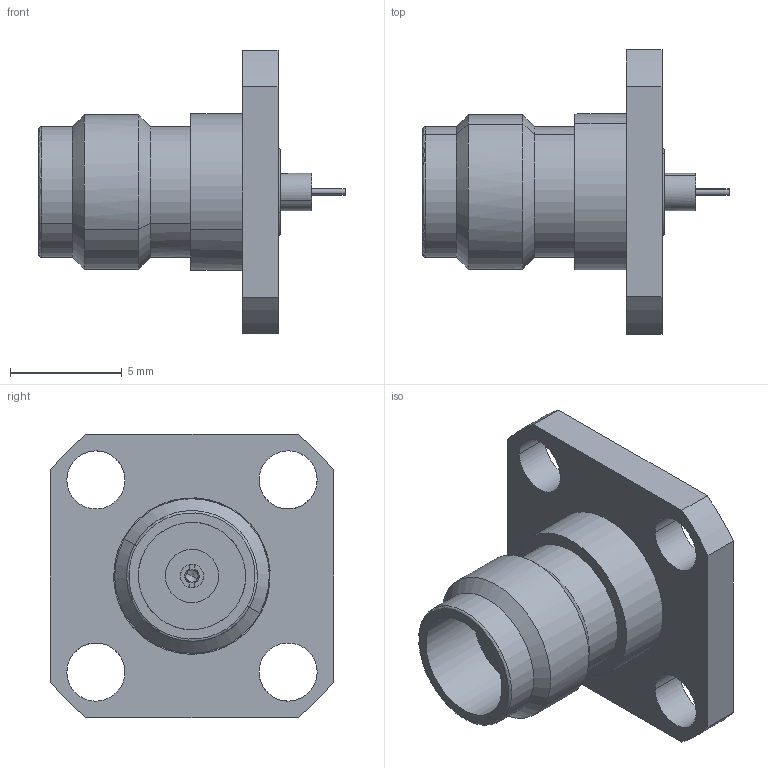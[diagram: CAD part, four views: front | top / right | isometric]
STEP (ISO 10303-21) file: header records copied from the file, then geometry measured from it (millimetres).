
FILE_DESCRIPTION(('CATIA V5 STEP Exchange'),'2;1');
FILE_NAME('F:\Work SZ\CMP 图纸\Precision Coaxial Connector\2.4mm\97-02-9F7-018\97-02-9F7-018A(REV.A).stp','2013-08-09T02:46:12+00:00',('none'),('none'),'CATIA Version 5 Release 17 (IN-10)','CATIA V5 STEP AP203','none');
FILE_SCHEMA(('CONFIG_CONTROL_DESIGN'));
Length unit declared in the file: millimetre
Products named in the file (1): 97-02-9F7-018A
Bounding box: 13.7 x 12.7 x 12.7 mm (x, y, z)
Volume: 457.3 mm3; surface area: 683.4 mm2
Topology: 1 solids, 1 shells, 68 faces, 163 edges, 103 vertices
Faces by surface type: cylinder 32, plane 21, cone 13, torus 2
Entity records: 2409 total; most frequent: CARTESIAN_POINT 905, ORIENTED_EDGE 322, DIRECTION 236, EDGE_CURVE 161, AXIS2_PLACEMENT_3D 106, VERTEX_POINT 103, EDGE_LOOP 84, VECTOR 71
